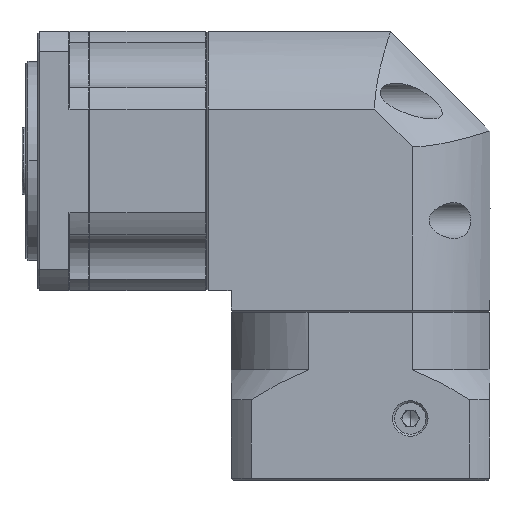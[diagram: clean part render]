
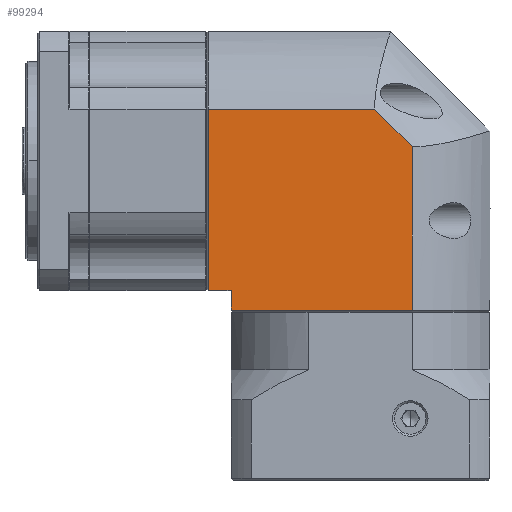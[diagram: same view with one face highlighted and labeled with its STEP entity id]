
A CAD part, top view. The second image highlights one B-rep face of the part: STEP entity #99294.
In plain terms, the highlighted planar face has unit normal (0, 0, 1).
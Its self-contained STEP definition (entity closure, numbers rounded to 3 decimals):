
#1154 = VERTEX_POINT ( 'NONE', #12932 ) ;
#1384 = CARTESIAN_POINT ( 'NONE',  ( -26.987, -19.997, -81.977 ) ) ;
#3636 = EDGE_CURVE ( 'NONE', #1154, #21210, #107469, .T. ) ;
#6417 = CARTESIAN_POINT ( 'NONE',  ( -26.987, -65.487, -81.977 ) ) ;
#12932 = CARTESIAN_POINT ( 'NONE',  ( 14.706, -19.997, -81.977 ) ) ;
#19662 = CARTESIAN_POINT ( 'NONE',  ( -31.287, -70.487, -81.977 ) ) ;
#20855 = CARTESIAN_POINT ( 'NONE',  ( -21.287, -70.487, -81.977 ) ) ;
#21210 = VERTEX_POINT ( 'NONE', #1384 ) ;
#25568 = ORIENTED_EDGE ( 'NONE', *, *, #64899, .T. ) ;
#27311 = CARTESIAN_POINT ( 'NONE',  ( -21.287, -0.487, -81.977 ) ) ;
#32053 = DIRECTION ( 'NONE',  ( 1., 0., 0. ) ) ;
#32060 = VERTEX_POINT ( 'NONE', #113915 ) ;
#32521 = VECTOR ( 'NONE', #44516, 1000. ) ;
#37851 = CARTESIAN_POINT ( 'NONE',  ( -31.287, -0.487, -81.977 ) ) ;
#39737 = DIRECTION ( 'NONE',  ( 0., -1., 0. ) ) ;
#40746 = DIRECTION ( 'NONE',  ( -0.707, 0.707, 0. ) ) ;
#41527 = CARTESIAN_POINT ( 'NONE',  ( 43.713, -19.997, -81.977 ) ) ;
#44516 = DIRECTION ( 'NONE',  ( 0., -1., 0. ) ) ;
#45913 = LINE ( 'NONE', #72354, #111479 ) ;
#48381 = VECTOR ( 'NONE', #40746, 1000. ) ;
#50163 = CARTESIAN_POINT ( 'NONE',  ( 24.204, -70.487, -81.977 ) ) ;
#50315 = DIRECTION ( 'NONE',  ( -1., 0., 0. ) ) ;
#55764 = VECTOR ( 'NONE', #39737, 1000. ) ;
#56548 = EDGE_CURVE ( 'NONE', #67018, #1154, #81198, .T. ) ;
#61011 = CARTESIAN_POINT ( 'NONE',  ( 24.204, -0.487, -81.977 ) ) ;
#62160 = PLANE ( 'NONE',  #149765 ) ;
#64526 = VECTOR ( 'NONE', #73508, 1000. ) ;
#64899 = EDGE_CURVE ( 'NONE', #85738, #67018, #130105, .T. ) ;
#67018 = VERTEX_POINT ( 'NONE', #96184 ) ;
#68961 = ORIENTED_EDGE ( 'NONE', *, *, #3636, .T. ) ;
#69304 = VECTOR ( 'NONE', #32053, 1000. ) ;
#72354 = CARTESIAN_POINT ( 'NONE',  ( -31.287, -65.487, -81.977 ) ) ;
#73508 = DIRECTION ( 'NONE',  ( 0., 1., 0. ) ) ;
#73785 = ORIENTED_EDGE ( 'NONE', *, *, #152053, .T. ) ;
#79975 = ORIENTED_EDGE ( 'NONE', *, *, #56548, .T. ) ;
#81198 = LINE ( 'NONE', #89774, #48381 ) ;
#83067 = DIRECTION ( 'NONE',  ( 1., 0., 0. ) ) ;
#85738 = VERTEX_POINT ( 'NONE', #50163 ) ;
#89774 = CARTESIAN_POINT ( 'NONE',  ( -346.598, 341.308, -81.977 ) ) ;
#94641 = VERTEX_POINT ( 'NONE', #6417 ) ;
#96184 = CARTESIAN_POINT ( 'NONE',  ( 24.204, -29.494, -81.977 ) ) ;
#99294 = ADVANCED_FACE ( 'NONE', ( #139622 ), #62160, .F. ) ;
#99608 = ORIENTED_EDGE ( 'NONE', *, *, #152090, .T. ) ;
#100573 = VERTEX_POINT ( 'NONE', #20855 ) ;
#105877 = LINE ( 'NONE', #19662, #69304 ) ;
#107469 = LINE ( 'NONE', #41527, #136533 ) ;
#111468 = ORIENTED_EDGE ( 'NONE', *, *, #125785, .T. ) ;
#111479 = VECTOR ( 'NONE', #83067, 1000. ) ;
#113915 = CARTESIAN_POINT ( 'NONE',  ( -21.287, -65.487, -81.977 ) ) ;
#115322 = DIRECTION ( 'NONE',  ( -1., 0., 0. ) ) ;
#124122 = DIRECTION ( 'NONE',  ( 0., 0., -1. ) ) ;
#125785 = EDGE_CURVE ( 'NONE', #94641, #32060, #45913, .T. ) ;
#130105 = LINE ( 'NONE', #61011, #64526 ) ;
#130995 = LINE ( 'NONE', #143231, #32521 ) ;
#136320 = ORIENTED_EDGE ( 'NONE', *, *, #147089, .T. ) ;
#136533 = VECTOR ( 'NONE', #115322, 1000. ) ;
#139622 = FACE_OUTER_BOUND ( 'NONE', #151861, .T. ) ;
#143231 = CARTESIAN_POINT ( 'NONE',  ( -26.987, -65.487, -81.977 ) ) ;
#147089 = EDGE_CURVE ( 'NONE', #32060, #100573, #154276, .T. ) ;
#149765 = AXIS2_PLACEMENT_3D ( 'NONE', #37851, #124122, #50315 ) ;
#151861 = EDGE_LOOP ( 'NONE', ( #25568, #79975, #68961, #99608, #111468, #136320, #73785 ) ) ;
#152053 = EDGE_CURVE ( 'NONE', #100573, #85738, #105877, .T. ) ;
#152090 = EDGE_CURVE ( 'NONE', #21210, #94641, #130995, .T. ) ;
#154276 = LINE ( 'NONE', #27311, #55764 ) ;
